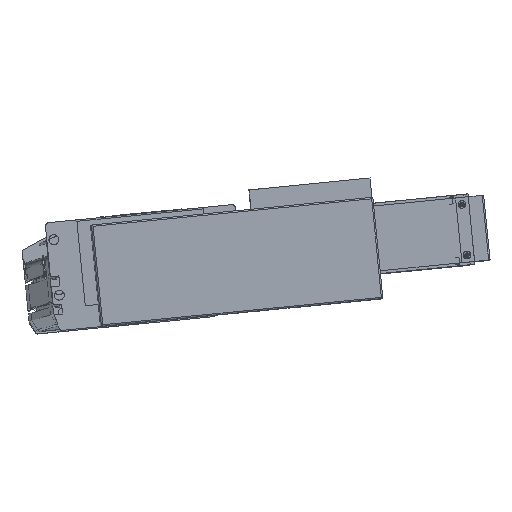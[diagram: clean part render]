
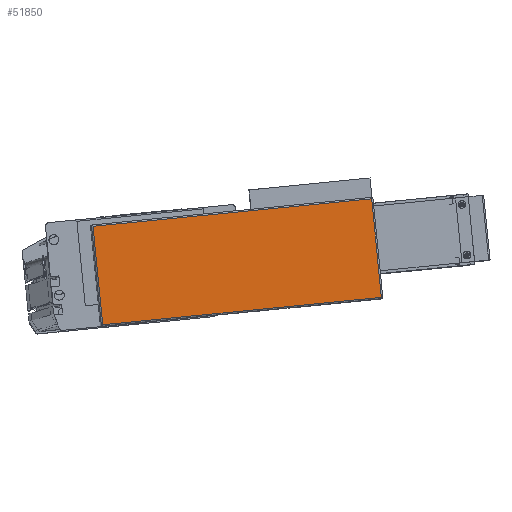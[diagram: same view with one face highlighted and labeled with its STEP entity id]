
A CAD part, top view. The second image highlights one B-rep face of the part: STEP entity #51850.
In plain terms, the highlighted planar face has unit normal (0.017, 0.003, 1) as drawn and (0, 0, 1) by its records, which use the part's own axes.
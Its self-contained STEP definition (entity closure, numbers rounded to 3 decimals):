
#18063 = VECTOR ( 'NONE', #18069, 1000. ) ;
#18069 = DIRECTION ( 'NONE',  ( 1., 0., 0. ) ) ;
#20444 = CARTESIAN_POINT ( 'NONE',  ( -35.75, 0., 44. ) ) ;
#20445 = PLANE ( 'NONE',  #20538 ) ;
#20491 = FACE_OUTER_BOUND ( 'NONE', #51846, .T. ) ;
#20535 = DIRECTION ( 'NONE',  ( 1., 0., 0. ) ) ;
#20537 = DIRECTION ( 'NONE',  ( 0., 0., 1. ) ) ;
#20538 = AXIS2_PLACEMENT_3D ( 'NONE', #20444, #20537, #20535 ) ;
#20843 = CARTESIAN_POINT ( 'NONE',  ( 163.25, 72., 44. ) ) ;
#20845 = LINE ( 'NONE', #20843, #20933 ) ;
#20907 = DIRECTION ( 'NONE',  ( 0., -1., 0. ) ) ;
#20908 = VECTOR ( 'NONE', #20907, 1000. ) ;
#20916 = CARTESIAN_POINT ( 'NONE',  ( -34.75, 0., 44. ) ) ;
#20924 = LINE ( 'NONE', #20916, #20908 ) ;
#20931 = DIRECTION ( 'NONE',  ( 0., 1., 0. ) ) ;
#20933 = VECTOR ( 'NONE', #20931, 1000. ) ;
#21061 = CARTESIAN_POINT ( 'NONE',  ( 164.25, 1., 44. ) ) ;
#21062 = LINE ( 'NONE', #21061, #18063 ) ;
#21104 = DIRECTION ( 'NONE',  ( -1., 0., 0. ) ) ;
#21105 = VECTOR ( 'NONE', #21104, 1000. ) ;
#21117 = CARTESIAN_POINT ( 'NONE',  ( 163.25, 1., 44. ) ) ;
#21125 = CARTESIAN_POINT ( 'NONE',  ( -35.75, 71., 44. ) ) ;
#21126 = LINE ( 'NONE', #21125, #21105 ) ;
#21139 = CARTESIAN_POINT ( 'NONE',  ( 163.25, 71., 44. ) ) ;
#21144 = CARTESIAN_POINT ( 'NONE',  ( -34.75, 1., 44. ) ) ;
#21145 = CARTESIAN_POINT ( 'NONE',  ( -34.75, 71., 44. ) ) ;
#51846 = EDGE_LOOP ( 'NONE', ( #51863, #52035, #52032, #51960 ) ) ;
#51850 = ADVANCED_FACE ( 'NONE', ( #20491 ), #20445, .T. ) ;
#51863 = ORIENTED_EDGE ( 'NONE', *, *, #52025, .T. ) ;
#51959 = EDGE_CURVE ( 'NONE', #52031, #52028, #20845, .T. ) ;
#51960 = ORIENTED_EDGE ( 'NONE', *, *, #51963, .T. ) ;
#51963 = EDGE_CURVE ( 'NONE', #52026, #52027, #20924, .T. ) ;
#52025 = EDGE_CURVE ( 'NONE', #52027, #52031, #21062, .T. ) ;
#52026 = VERTEX_POINT ( 'NONE', #21145 ) ;
#52027 = VERTEX_POINT ( 'NONE', #21144 ) ;
#52028 = VERTEX_POINT ( 'NONE', #21139 ) ;
#52031 = VERTEX_POINT ( 'NONE', #21117 ) ;
#52032 = ORIENTED_EDGE ( 'NONE', *, *, #52036, .T. ) ;
#52035 = ORIENTED_EDGE ( 'NONE', *, *, #51959, .T. ) ;
#52036 = EDGE_CURVE ( 'NONE', #52028, #52026, #21126, .T. ) ;
